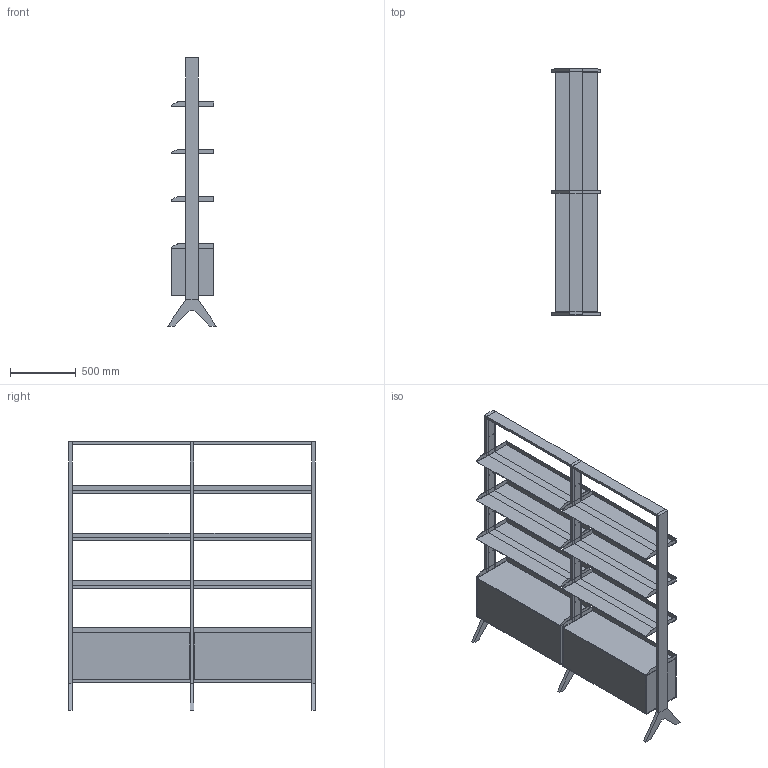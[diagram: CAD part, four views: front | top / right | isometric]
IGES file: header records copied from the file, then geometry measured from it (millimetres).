
Start section: Comment
Global section: file name: Regal - 2040 x 1800 - Frei.igs; native system:  By UGS Corp.; preprocessor: XPlus GENERIC/IGES 3.0; author: Author; organization: Title; date: 20170123.125409; units: inch
Bounding box: 370 x 1875 x 2040 mm (x, y, z)
Surface area: 12733161.4 mm2 (no closed solid volume)
Topology: 0 solids, 0 shells, 456 faces, 2196 edges, 2196 vertices
Faces by surface type: bspline 456
